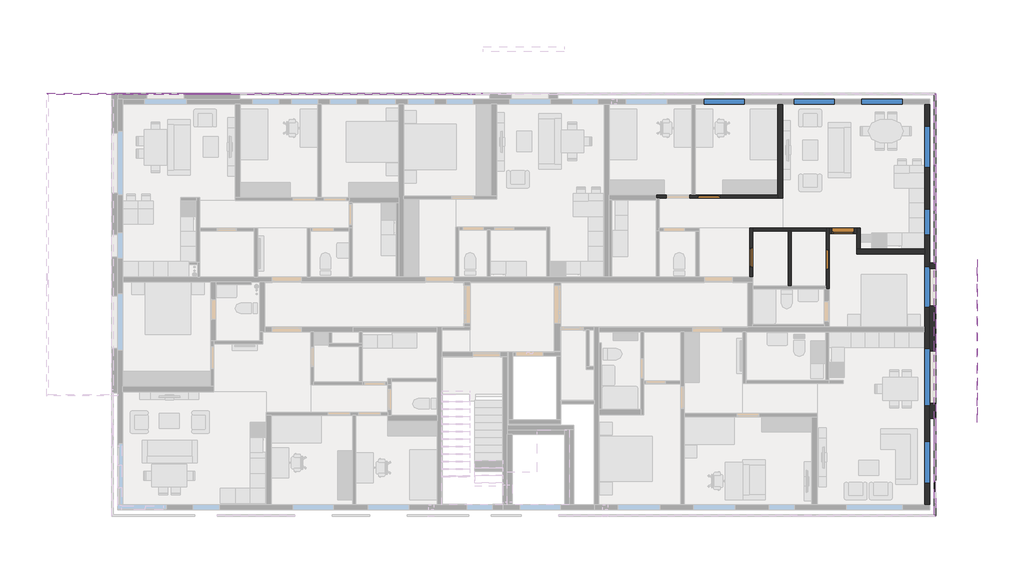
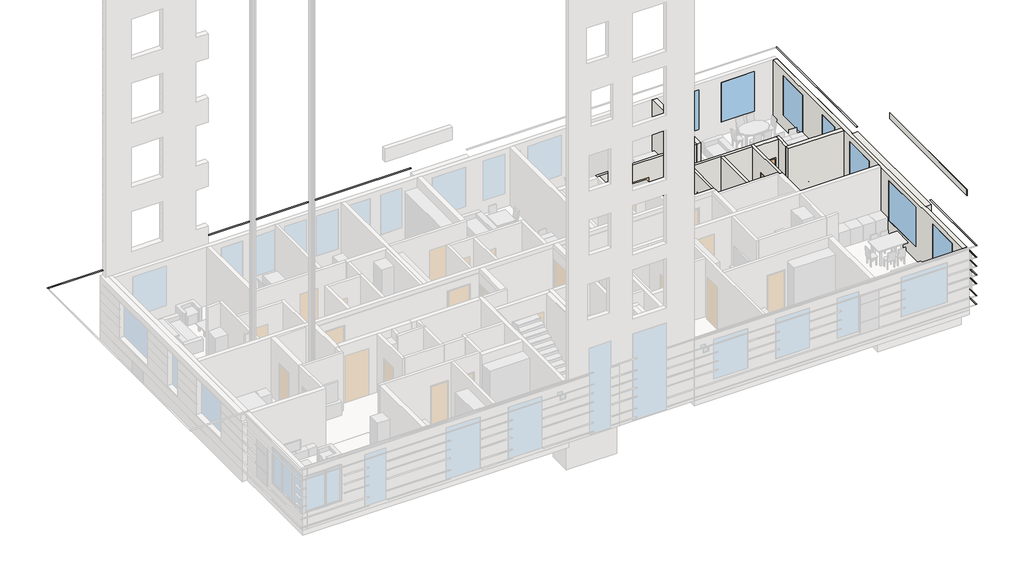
# One storey, part 7 of 11: 31 proxies, 12 walls, 8 doors, 8 windows.
"""IFC4 building model written with IfcOpenShell, lengths in millimetres."""

from ifc_helpers import new_model, si_unit, frame, origin, place, context, project, spatial, polyline, outline, extrude, faceted_brep, transform, mapped, element, save
from components import door_b8e875bd, door_3b0bb860, door_642c7085, door_6199b08a, door_e21d8083, door_050a15a8, window_4f46dce5, window_6eaa91db, window_1203b59f

model = new_model("IFC4")

# Units and contexts
model_context = context("Model", 3, world=origin())
ifc_project = project(units=[si_unit("LENGTHUNIT", "METRE", prefix="MILLI")], contexts=[model_context])

# Site, building, storey
site = spatial("IfcSite", under=ifc_project)
building = spatial("IfcBuilding", under=site)
storey = spatial("IfcBuildingStorey", under=building, Name="02_+4,400_Ж", Elevation=1200.0)

# Proxies
placement = place(None, origin())
element("IfcBuildingElementProxy", 1, Name="Reveals", at=placement, inside=storey, context=model_context, shape_type="SweptSolid", body=[
    extrude(outline(polyline([(133840.0000001, 128049.9999987), (133840.0000001, 127989.9999987), (128855.0000001, 127989.9999987), (128855.0000001, 128049.9999987), (133840.0000001, 128049.9999987)])), frame((0.0, 0.0, 4455.0), z_axis=(0.0, 0.0, 1.0), x_axis=(1.0, 0.0, 0.0)), (0.0, 0.0, 1.0), 5.0),
])
element("IfcBuildingElementProxy", 2, Name="Reveals", at=placement, inside=storey, context=model_context, shape_type="SweptSolid", body=[
    extrude(outline(polyline([(133840.0000001, 128049.9999987), (133840.0000001, 127989.9999987), (128980.0000001, 127989.9999987), (128980.0000001, 128049.9999987), (133840.0000001, 128049.9999987)])), frame((0.0, 0.0, 3850.0), z_axis=(0.0, 0.0, 1.0), x_axis=(1.0, 0.0, 0.0)), (0.0, 0.0, 1.0), 5.0),
])
element("IfcBuildingElementProxy", 3, Name="Reveals", at=placement, inside=storey, context=model_context, shape_type="SweptSolid", body=[
    extrude(outline(polyline([(133840.0000001, 128049.9999987), (133840.0000001, 127989.9999987), (131630.0000001, 127989.9999987), (131630.0000001, 128049.9999987), (133840.0000001, 128049.9999987)])), frame((0.0, 0.0, 3395.0), z_axis=(0.0, 0.0, 1.0), x_axis=(1.0, 0.0, 0.0)), (0.0, 0.0, 1.0), 5.0),
    extrude(outline(polyline([(130130.0000001, 128049.9999987), (130130.0000001, 127989.9999987), (128790.0000001, 127989.9999987), (128730.0000001, 128049.9999987), (130130.0000001, 128049.9999987)])), frame((0.0, 0.0, 3395.0), z_axis=(0.0, 0.0, 1.0), x_axis=(1.0, 0.0, 0.0)), (0.0, 0.0, 1.0), 5.0),
])
element("IfcBuildingElementProxy", 4, Name="Reveals", at=placement, inside=storey, context=model_context, shape_type="SweptSolid", body=[
    extrude(outline(polyline([(133530.0000001, 128049.9999987), (133530.0000001, 127989.9999987), (131630.0000001, 127989.9999987), (131630.0000001, 128049.9999987), (133530.0000001, 128049.9999987)])), frame((0.0, 0.0, 2940.0), z_axis=(0.0, 0.0, 1.0), x_axis=(1.0, 0.0, 0.0)), (0.0, 0.0, 1.0), 5.0),
    extrude(outline(polyline([(130130.0000001, 128049.9999987), (130130.0000001, 127989.9999987), (128790.0000001, 127989.9999987), (128730.0000001, 128049.9999987), (130130.0000001, 128049.9999987)])), frame((0.0, 0.0, 2940.0), z_axis=(0.0, 0.0, 1.0), x_axis=(1.0, 0.0, 0.0)), (0.0, 0.0, 1.0), 5.0),
])
element("IfcBuildingElementProxy", 5, Name="Reveals", at=placement, inside=storey, context=model_context, shape_type="SweptSolid", body=[
    extrude(outline(polyline([(133840.0000001, 128049.9999987), (133840.0000001, 127989.9999987), (131630.0000001, 127989.9999987), (131630.0000001, 128049.9999987), (133840.0000001, 128049.9999987)])), frame((0.0, 0.0, 2485.0), z_axis=(0.0, 0.0, 1.0), x_axis=(1.0, 0.0, 0.0)), (0.0, 0.0, 1.0), 5.0),
    extrude(outline(polyline([(130130.0000001, 128049.9999987), (130130.0000001, 127989.9999987), (128790.0000001, 127989.9999987), (128730.0000001, 128049.9999987), (130130.0000001, 128049.9999987)])), frame((0.0, 0.0, 2485.0), z_axis=(0.0, 0.0, 1.0), x_axis=(1.0, 0.0, 0.0)), (0.0, 0.0, 1.0), 5.0),
])
element("IfcBuildingElementProxy", 6, Name="Reveals", at=placement, inside=storey, context=model_context, shape_type="SweptSolid", body=[
    extrude(outline(polyline([(133840.0000001, 128049.9999987), (133840.0000001, 127989.9999987), (128790.0000001, 127989.9999987), (128730.0000001, 128049.9999987), (133840.0000001, 128049.9999987)])), frame((0.0, 0.0, 1880.0), z_axis=(0.0, 0.0, 1.0), x_axis=(1.0, 0.0, 0.0)), (0.0, 0.0, 1.0), 5.0),
])
element("IfcBuildingElementProxy", 7, Name="Reveals", at=placement, inside=storey, context=model_context, shape_type="SweptSolid", body=[
    extrude(outline(polyline([(133840.0000001, 128049.9999987), (133840.0000001, 127989.9999987), (128790.0000001, 127989.9999987), (128730.0000001, 128049.9999987), (133840.0000001, 128049.9999987)])), frame((0.0, 0.0, 1425.0), z_axis=(0.0, 0.0, 1.0), x_axis=(1.0, 0.0, 0.0)), (0.0, 0.0, 1.0), 5.0),
])
element("IfcBuildingElementProxy", 8, Name="Reveals", at=placement, inside=storey, context=model_context, shape_type="SweptSolid", body=[
    extrude(outline(polyline([(143829.5000001, 128049.9999987), (143829.5000001, 127989.9999987), (133840.0000001, 127989.9999987), (133840.0000001, 128049.9999987), (143829.5000001, 128049.9999987)])), frame((0.0, 0.0, 4455.0), z_axis=(0.0, 0.0, 1.0), x_axis=(1.0, 0.0, 0.0)), (0.0, 0.0, 1.0), 5.0),
])
element("IfcBuildingElementProxy", 9, Name="Reveals", at=placement, inside=storey, context=model_context, shape_type="SweptSolid", body=[
    extrude(outline(polyline([(143829.5000001, 128049.9999987), (143829.5000001, 127989.9999987), (133840.0000001, 127989.9999987), (133840.0000001, 128049.9999987), (143829.5000001, 128049.9999987)])), frame((0.0, 0.0, 3850.0), z_axis=(0.0, 0.0, 1.0), x_axis=(1.0, 0.0, 0.0)), (0.0, 0.0, 1.0), 5.0),
])
element("IfcBuildingElementProxy", 10, Name="Reveals", at=placement, inside=storey, context=model_context, shape_type="SweptSolid", body=[
    extrude(outline(polyline([(143829.5000001, 128049.9999987), (143829.5000001, 127989.9999987), (143080.0000001, 127989.9999987), (143080.0000001, 128049.9999987), (143829.5000001, 128049.9999987)])), frame((0.0, 0.0, 3395.0), z_axis=(0.0, 0.0, 1.0), x_axis=(1.0, 0.0, 0.0)), (0.0, 0.0, 1.0), 5.0),
    extrude(outline(polyline([(134430.0000001, 128049.9999987), (134430.0000001, 127989.9999987), (133840.0000001, 127989.9999987), (133840.0000001, 128049.9999987), (134430.0000001, 128049.9999987)])), frame((0.0, 0.0, 3395.0), z_axis=(0.0, 0.0, 1.0), x_axis=(1.0, 0.0, 0.0)), (0.0, 0.0, 1.0), 5.0),
    extrude(outline(polyline([(135980.0000001, 128049.9999987), (135980.0000001, 127989.9999987), (135330.0000001, 127989.9999987), (135330.0000001, 128049.9999987), (135980.0000001, 128049.9999987)])), frame((0.0, 0.0, 3395.0), z_axis=(0.0, 0.0, 1.0), x_axis=(1.0, 0.0, 0.0)), (0.0, 0.0, 1.0), 5.0),
    extrude(outline(polyline([(137530.0000001, 128049.9999987), (137530.0000001, 127989.9999987), (136880.0000001, 127989.9999987), (136880.0000001, 128049.9999987), (137530.0000001, 128049.9999987)])), frame((0.0, 0.0, 3395.0), z_axis=(0.0, 0.0, 1.0), x_axis=(1.0, 0.0, 0.0)), (0.0, 0.0, 1.0), 5.0),
    extrude(outline(polyline([(139080.0000001, 128049.9999987), (139080.0000001, 127989.9999987), (138430.0000001, 127989.9999987), (138430.0000001, 128049.9999987), (139080.0000001, 128049.9999987)])), frame((0.0, 0.0, 3395.0), z_axis=(0.0, 0.0, 1.0), x_axis=(1.0, 0.0, 0.0)), (0.0, 0.0, 1.0), 5.0),
    extrude(outline(polyline([(140630.0000001, 128049.9999987), (140630.0000001, 127989.9999987), (139980.0000001, 127989.9999987), (139980.0000001, 128049.9999987), (140630.0000001, 128049.9999987)])), frame((0.0, 0.0, 3395.0), z_axis=(0.0, 0.0, 1.0), x_axis=(1.0, 0.0, 0.0)), (0.0, 0.0, 1.0), 5.0),
    extrude(outline(polyline([(142180.0000001, 128049.9999987), (142180.0000001, 127989.9999987), (141530.0000001, 127989.9999987), (141530.0000001, 128049.9999987), (142180.0000001, 128049.9999987)])), frame((0.0, 0.0, 3395.0), z_axis=(0.0, 0.0, 1.0), x_axis=(1.0, 0.0, 0.0)), (0.0, 0.0, 1.0), 5.0),
])
element("IfcBuildingElementProxy", 11, Name="Reveals", at=placement, inside=storey, context=model_context, shape_type="SweptSolid", body=[
    extrude(outline(polyline([(161570.0000001, 127989.9999987), (161630.0000001, 128049.9999987), (161630.0000001, 121249.9999987), (161570.0000001, 121249.9999987), (161570.0000001, 127989.9999987)])), frame((0.0, 0.0, 4455.0), z_axis=(0.0, 0.0, 1.0), x_axis=(1.0, 0.0, 0.0)), (0.0, 0.0, 1.0), 5.0),
])
element("IfcBuildingElementProxy", 12, Name="Reveals", at=placement, inside=storey, context=model_context, shape_type="SweptSolid", body=[
    extrude(outline(polyline([(161570.0000001, 127989.9999987), (161630.0000001, 128049.9999987), (161630.0000001, 121249.9999987), (161570.0000001, 121249.9999987), (161570.0000001, 127989.9999987)])), frame((0.0, 0.0, 3850.0), z_axis=(0.0, 0.0, 1.0), x_axis=(1.0, 0.0, 0.0)), (0.0, 0.0, 1.0), 5.0),
])
element("IfcBuildingElementProxy", 13, Name="Reveals", at=placement, inside=storey, context=model_context, shape_type="SweptSolid", body=[
    extrude(outline(polyline([(161570.0000001, 122449.9999987), (161630.0000001, 122449.9999987), (161630.0000001, 121249.9999987), (161570.0000001, 121249.9999987), (161570.0000001, 122449.9999987)])), frame((0.0, 0.0, 3395.0), z_axis=(0.0, 0.0, 1.0), x_axis=(1.0, 0.0, 0.0)), (0.0, 0.0, 1.0), 5.0),
    extrude(outline(polyline([(161570.0000001, 125149.9999987), (161630.0000001, 125149.9999987), (161630.0000001, 123349.9999987), (161570.0000001, 123349.9999987), (161570.0000001, 125149.9999987)])), frame((0.0, 0.0, 3395.0), z_axis=(0.0, 0.0, 1.0), x_axis=(1.0, 0.0, 0.0)), (0.0, 0.0, 1.0), 5.0),
    extrude(outline(polyline([(161570.0000001, 127989.9999987), (161630.0000001, 128049.9999987), (161630.0000001, 126649.9999987), (161570.0000001, 126649.9999987), (161570.0000001, 127989.9999987)])), frame((0.0, 0.0, 3395.0), z_axis=(0.0, 0.0, 1.0), x_axis=(1.0, 0.0, 0.0)), (0.0, 0.0, 1.0), 5.0),
])
element("IfcBuildingElementProxy", 14, Name="Reveals", at=placement, inside=storey, context=model_context, shape_type="SweptSolid", body=[
    extrude(outline(polyline([(161570.0000001, 122449.9999987), (161630.0000001, 122449.9999987), (161630.0000001, 121249.9999987), (161570.0000001, 121249.9999987), (161570.0000001, 122449.9999987)])), frame((0.0, 0.0, 2940.0), z_axis=(0.0, 0.0, 1.0), x_axis=(1.0, 0.0, 0.0)), (0.0, 0.0, 1.0), 5.0),
    extrude(outline(polyline([(161570.0000001, 125149.9999987), (161630.0000001, 125149.9999987), (161630.0000001, 123349.9999987), (161570.0000001, 123349.9999987), (161570.0000001, 125149.9999987)])), frame((0.0, 0.0, 2940.0), z_axis=(0.0, 0.0, 1.0), x_axis=(1.0, 0.0, 0.0)), (0.0, 0.0, 1.0), 5.0),
    extrude(outline(polyline([(161570.0000001, 127989.9999987), (161630.0000001, 128049.9999987), (161630.0000001, 126649.9999987), (161570.0000001, 126649.9999987), (161570.0000001, 127989.9999987)])), frame((0.0, 0.0, 2940.0), z_axis=(0.0, 0.0, 1.0), x_axis=(1.0, 0.0, 0.0)), (0.0, 0.0, 1.0), 5.0),
])
element("IfcBuildingElementProxy", 15, Name="Reveals", at=placement, inside=storey, context=model_context, shape_type="SweptSolid", body=[
    extrude(outline(polyline([(161570.0000001, 122449.9999987), (161630.0000001, 122449.9999987), (161630.0000001, 121249.9999987), (161570.0000001, 121249.9999987), (161570.0000001, 122449.9999987)])), frame((0.0, 0.0, 2485.0), z_axis=(0.0, 0.0, 1.0), x_axis=(1.0, 0.0, 0.0)), (0.0, 0.0, 1.0), 5.0),
    extrude(outline(polyline([(161570.0000001, 125149.9999987), (161630.0000001, 125149.9999987), (161630.0000001, 123349.9999987), (161570.0000001, 123349.9999987), (161570.0000001, 125149.9999987)])), frame((0.0, 0.0, 2485.0), z_axis=(0.0, 0.0, 1.0), x_axis=(1.0, 0.0, 0.0)), (0.0, 0.0, 1.0), 5.0),
    extrude(outline(polyline([(161570.0000001, 127989.9999987), (161630.0000001, 128049.9999987), (161630.0000001, 126649.9999987), (161570.0000001, 126649.9999987), (161570.0000001, 127989.9999987)])), frame((0.0, 0.0, 2485.0), z_axis=(0.0, 0.0, 1.0), x_axis=(1.0, 0.0, 0.0)), (0.0, 0.0, 1.0), 5.0),
])
element("IfcBuildingElementProxy", 16, Name="Reveals", at=placement, inside=storey, context=model_context, shape_type="SweptSolid", body=[
    extrude(outline(polyline([(161570.0000001, 127989.9999987), (161630.0000001, 128049.9999987), (161630.0000001, 121249.9999987), (161570.0000001, 121249.9999987), (161570.0000001, 127989.9999987)])), frame((0.0, 0.0, 1880.0), z_axis=(0.0, 0.0, 1.0), x_axis=(1.0, 0.0, 0.0)), (0.0, 0.0, 1.0), 5.0),
])
element("IfcBuildingElementProxy", 17, Name="Reveals", at=placement, inside=storey, context=model_context, shape_type="SweptSolid", body=[
    extrude(outline(polyline([(161570.0000001, 127989.9999987), (161630.0000001, 128049.9999987), (161630.0000001, 121249.9999987), (161570.0000001, 121249.9999987), (161570.0000001, 127989.9999987)])), frame((0.0, 0.0, 1425.0), z_axis=(0.0, 0.0, 1.0), x_axis=(1.0, 0.0, 0.0)), (0.0, 0.0, 1.0), 5.0),
])
element("IfcBuildingElementProxy", 18, Name="Reveals", at=placement, inside=storey, context=model_context, shape_type="SweptSolid", body=[
    extrude(outline(polyline([(161570.0000001, 121249.9999987), (161630.0000001, 121249.9999987), (161630.0000001, 115049.9999987), (161570.0000001, 115049.9999987), (161570.0000001, 121249.9999987)])), frame((0.0, 0.0, 3850.0), z_axis=(0.0, 0.0, 1.0), x_axis=(1.0, 0.0, 0.0)), (0.0, 0.0, 1.0), 5.0),
])
element("IfcBuildingElementProxy", 19, Name="Reveals", at=placement, inside=storey, context=model_context, shape_type="SweptSolid", body=[
    extrude(outline(polyline([(161570.0000001, 115649.9999987), (161630.0000001, 115649.9999987), (161630.0000001, 115049.9999987), (161570.0000001, 115049.9999987), (161570.0000001, 115649.9999987)])), frame((0.0, 0.0, 3395.0), z_axis=(0.0, 0.0, 1.0), x_axis=(1.0, 0.0, 0.0)), (0.0, 0.0, 1.0), 5.0),
    extrude(outline(polyline([(161570.0000001, 121249.9999987), (161630.0000001, 121249.9999987), (161630.0000001, 121049.9999987), (161570.0000001, 121049.9999987), (161570.0000001, 121249.9999987)])), frame((0.0, 0.0, 3395.0), z_axis=(0.0, 0.0, 1.0), x_axis=(1.0, 0.0, 0.0)), (0.0, 0.0, 1.0), 5.0),
    extrude(outline(polyline([(161570.0000001, 119549.9999987), (161630.0000001, 119549.9999987), (161630.0000001, 117749.9999987), (161570.0000001, 117749.9999987), (161570.0000001, 119549.9999987)])), frame((0.0, 0.0, 3395.0), z_axis=(0.0, 0.0, 1.0), x_axis=(1.0, 0.0, 0.0)), (0.0, 0.0, 1.0), 5.0),
])
element("IfcBuildingElementProxy", 20, Name="Reveals", at=placement, inside=storey, context=model_context, shape_type="SweptSolid", body=[
    extrude(outline(polyline([(161570.0000001, 115649.9999987), (161630.0000001, 115649.9999987), (161630.0000001, 115049.9999987), (161570.0000001, 115049.9999987), (161570.0000001, 115649.9999987)])), frame((0.0, 0.0, 2940.0), z_axis=(0.0, 0.0, 1.0), x_axis=(1.0, 0.0, 0.0)), (0.0, 0.0, 1.0), 5.0),
    extrude(outline(polyline([(161570.0000001, 121249.9999987), (161630.0000001, 121249.9999987), (161630.0000001, 121049.9999987), (161570.0000001, 121049.9999987), (161570.0000001, 121249.9999987)])), frame((0.0, 0.0, 2940.0), z_axis=(0.0, 0.0, 1.0), x_axis=(1.0, 0.0, 0.0)), (0.0, 0.0, 1.0), 5.0),
    extrude(outline(polyline([(161570.0000001, 119549.9999987), (161630.0000001, 119549.9999987), (161630.0000001, 117749.9999987), (161570.0000001, 117749.9999987), (161570.0000001, 119549.9999987)])), frame((0.0, 0.0, 2940.0), z_axis=(0.0, 0.0, 1.0), x_axis=(1.0, 0.0, 0.0)), (0.0, 0.0, 1.0), 5.0),
])
element("IfcBuildingElementProxy", 21, Name="Reveals", at=placement, inside=storey, context=model_context, shape_type="SweptSolid", body=[
    extrude(outline(polyline([(161570.0000001, 115649.9999987), (161630.0000001, 115649.9999987), (161630.0000001, 115049.9999987), (161570.0000001, 115049.9999987), (161570.0000001, 115649.9999987)])), frame((0.0, 0.0, 2485.0), z_axis=(0.0, 0.0, 1.0), x_axis=(1.0, 0.0, 0.0)), (0.0, 0.0, 1.0), 5.0),
    extrude(outline(polyline([(161570.0000001, 121249.9999987), (161630.0000001, 121249.9999987), (161630.0000001, 121049.9999987), (161570.0000001, 121049.9999987), (161570.0000001, 121249.9999987)])), frame((0.0, 0.0, 2485.0), z_axis=(0.0, 0.0, 1.0), x_axis=(1.0, 0.0, 0.0)), (0.0, 0.0, 1.0), 5.0),
    extrude(outline(polyline([(161570.0000001, 119549.9999987), (161630.0000001, 119549.9999987), (161630.0000001, 117749.9999987), (161570.0000001, 117749.9999987), (161570.0000001, 119549.9999987)])), frame((0.0, 0.0, 2485.0), z_axis=(0.0, 0.0, 1.0), x_axis=(1.0, 0.0, 0.0)), (0.0, 0.0, 1.0), 5.0),
])
element("IfcBuildingElementProxy", 22, Name="Reveals", at=placement, inside=storey, context=model_context, shape_type="SweptSolid", body=[
    extrude(outline(polyline([(161570.0000001, 121249.9999987), (161630.0000001, 121249.9999987), (161630.0000001, 115049.9999987), (161570.0000001, 115049.9999987), (161570.0000001, 121249.9999987)])), frame((0.0, 0.0, 1880.0), z_axis=(0.0, 0.0, 1.0), x_axis=(1.0, 0.0, 0.0)), (0.0, 0.0, 1.0), 5.0),
])
element("IfcBuildingElementProxy", 23, Name="Reveals", at=placement, inside=storey, context=model_context, shape_type="SweptSolid", body=[
    extrude(outline(polyline([(161570.0000001, 121249.9999987), (161630.0000001, 121249.9999987), (161630.0000001, 115049.9999987), (161570.0000001, 115049.9999987), (161570.0000001, 121249.9999987)])), frame((0.0, 0.0, 1425.0), z_axis=(0.0, 0.0, 1.0), x_axis=(1.0, 0.0, 0.0)), (0.0, 0.0, 1.0), 5.0),
])
element("IfcBuildingElementProxy", 24, Name="Reveals", at=placement, inside=storey, context=model_context, shape_type="SweptSolid", body=[
    extrude(outline(polyline([(161570.0000001, 115049.9999987), (161630.0000001, 115049.9999987), (161630.0000001, 111149.9999987), (161570.0000001, 111209.9999987), (161570.0000001, 115049.9999987)])), frame((0.0, 0.0, 4455.0), z_axis=(0.0, 0.0, 1.0), x_axis=(1.0, 0.0, 0.0)), (0.0, 0.0, 1.0), 5.0),
])
element("IfcBuildingElementProxy", 25, Name="Reveals", at=placement, inside=storey, context=model_context, shape_type="SweptSolid", body=[
    extrude(outline(polyline([(161570.0000001, 115049.9999987), (161630.0000001, 115049.9999987), (161630.0000001, 111149.9999987), (161570.0000001, 111209.9999987), (161570.0000001, 115049.9999987)])), frame((0.0, 0.0, 3850.0), z_axis=(0.0, 0.0, 1.0), x_axis=(1.0, 0.0, 0.0)), (0.0, 0.0, 1.0), 5.0),
])
element("IfcBuildingElementProxy", 26, Name="Reveals", at=placement, inside=storey, context=model_context, shape_type="SweptSolid", body=[
    extrude(outline(polyline([(161570.0000001, 112549.9999987), (161630.0000001, 112549.9999987), (161630.0000001, 111149.9999987), (161570.0000001, 111209.9999987), (161570.0000001, 112549.9999987)])), frame((0.0, 0.0, 3395.0), z_axis=(0.0, 0.0, 1.0), x_axis=(1.0, 0.0, 0.0)), (0.0, 0.0, 1.0), 5.0),
    extrude(outline(polyline([(161570.0000001, 115049.9999987), (161630.0000001, 115049.9999987), (161630.0000001, 114049.9999987), (161570.0000001, 114049.9999987), (161570.0000001, 115049.9999987)])), frame((0.0, 0.0, 3395.0), z_axis=(0.0, 0.0, 1.0), x_axis=(1.0, 0.0, 0.0)), (0.0, 0.0, 1.0), 5.0),
])
element("IfcBuildingElementProxy", 27, Name="Reveals", at=placement, inside=storey, context=model_context, shape_type="SweptSolid", body=[
    extrude(outline(polyline([(161570.0000001, 111649.9999987), (161630.0000001, 111649.9999987), (161630.0000001, 111149.9999987), (161570.0000001, 111209.9999987), (161570.0000001, 111649.9999987)])), frame((0.0, 0.0, 2940.0), z_axis=(0.0, 0.0, 1.0), x_axis=(1.0, 0.0, 0.0)), (0.0, 0.0, 1.0), 5.0),
    extrude(outline(polyline([(161570.0000001, 115049.9999987), (161630.0000001, 115049.9999987), (161630.0000001, 114049.9999987), (161570.0000001, 114049.9999987), (161570.0000001, 115049.9999987)])), frame((0.0, 0.0, 2940.0), z_axis=(0.0, 0.0, 1.0), x_axis=(1.0, 0.0, 0.0)), (0.0, 0.0, 1.0), 5.0),
])
element("IfcBuildingElementProxy", 28, Name="Reveals", at=placement, inside=storey, context=model_context, shape_type="SweptSolid", body=[
    extrude(outline(polyline([(161570.0000001, 112549.9999987), (161630.0000001, 112549.9999987), (161630.0000001, 111149.9999987), (161570.0000001, 111209.9999987), (161570.0000001, 112549.9999987)])), frame((0.0, 0.0, 2485.0), z_axis=(0.0, 0.0, 1.0), x_axis=(1.0, 0.0, 0.0)), (0.0, 0.0, 1.0), 5.0),
    extrude(outline(polyline([(161570.0000001, 115049.9999987), (161630.0000001, 115049.9999987), (161630.0000001, 114049.9999987), (161570.0000001, 114049.9999987), (161570.0000001, 115049.9999987)])), frame((0.0, 0.0, 2485.0), z_axis=(0.0, 0.0, 1.0), x_axis=(1.0, 0.0, 0.0)), (0.0, 0.0, 1.0), 5.0),
])
element("IfcBuildingElementProxy", 29, Name="Reveals", at=placement, inside=storey, context=model_context, shape_type="SweptSolid", body=[
    extrude(outline(polyline([(161570.0000001, 115049.9999987), (161630.0000001, 115049.9999987), (161630.0000001, 111149.9999987), (161570.0000001, 111209.9999987), (161570.0000001, 115049.9999987)])), frame((0.0, 0.0, 1880.0), z_axis=(0.0, 0.0, 1.0), x_axis=(1.0, 0.0, 0.0)), (0.0, 0.0, 1.0), 5.0),
])
element("IfcBuildingElementProxy", 30, Name="Reveals", at=placement, inside=storey, context=model_context, shape_type="SweptSolid", body=[
    extrude(outline(polyline([(161570.0000001, 115049.9999987), (161630.0000001, 115049.9999987), (161630.0000001, 111149.9999987), (161570.0000001, 111209.9999987), (161570.0000001, 115049.9999987)])), frame((0.0, 0.0, 1425.0), z_axis=(0.0, 0.0, 1.0), x_axis=(1.0, 0.0, 0.0)), (0.0, 0.0, 1.0), 5.0),
])
element("IfcBuildingElementProxy", 31, Name="Reveals", at=placement, inside=storey, context=model_context, shape_type="SweptSolid", body=[
    extrude(outline(polyline([(128855.0000001, 128049.9999987), (128855.0000001, 127989.9999987), (126190.0000001, 127989.9999987), (126130.0000001, 128049.9999987), (128855.0000001, 128049.9999987)])), frame((0.0, 0.0, 4455.0), z_axis=(0.0, 0.0, 1.0), x_axis=(1.0, 0.0, 0.0)), (0.0, 0.0, 1.0), 5.0),
])

# Doors
door_shape = door_b8e875bd(model_context)
element("IfcDoor", 32, ObjectType="Dr_Проем-Простой : ДВ", at=placement, inside=storey, context=model_context, shape_type="MappedRepresentation", body=[
    mapped(door_shape, transform((152359.8391908, 123917.4999987, 1200.0), x_axis=(1.0, 0.0, 0.0), y_axis=(0.0, 1.0, 0.0), z_axis=(0.0, 0.0, 1.0))),
])
door_2_shape = door_3b0bb860(model_context)
element("IfcDoor", 33, ObjectType="Dr_Проем-Простой : ДВ", at=placement, inside=storey, context=model_context, shape_type="MappedRepresentation", body=[
    mapped(door_2_shape, transform((154267.5000001, 121274.6769824, 1200.0), x_axis=(0.0, 1.0, 0.0), y_axis=(-1.0, 0.0, 0.0), z_axis=(0.0, 0.0, 1.0))),
])
element("IfcDoor", 34, ObjectType="Dr_Проем-Простой : ДВ", at=placement, inside=storey, context=model_context, shape_type="MappedRepresentation", body=[
    mapped(door_2_shape, transform((157317.5000001, 121605.323015, 1200.0), x_axis=(0.0, -1.0, 0.0), y_axis=(1.0, 0.0, 0.0), z_axis=(0.0, 0.0, 1.0))),
])
door_3_shape = door_642c7085(model_context)
element("IfcDoor", 35, ObjectType="Dr_Проем-Простой : ДВ", at=placement, inside=storey, context=model_context, shape_type="MappedRepresentation", body=[
    mapped(door_3_shape, transform((158135.3230165, 122549.9999987, 1200.0), x_axis=(-1.0, 0.0, 0.0), y_axis=(0.0, -1.0, 0.0), z_axis=(0.0, 0.0, 1.0))),
])
door_4_shape = door_6199b08a(model_context)
element("IfcDoor", 36, ObjectType="Dr_Дверь_v2.1 : ДМ Мд1 Зв3 Оп Г Брг 21-9", at=placement, inside=storey, context=model_context, shape_type="MappedRepresentation", body=[
    mapped(door_4_shape, transform((152440.1622072, 123917.4999987, 1200.0), x_axis=(1.0, 0.0, 0.0), y_axis=(0.0, 1.0, 0.0), z_axis=(0.0, 0.0, 1.0))),
])
door_5_shape = door_e21d8083(model_context)
element("IfcDoor", 37, ObjectType="Dr_Дверь_v2.1 : ДМ Мд1 Оп Г Брг 21-8 Л", at=placement, inside=storey, context=model_context, shape_type="MappedRepresentation", body=[
    mapped(door_5_shape, transform((154267.5000001, 121354.9999987, 1200.0), x_axis=(0.0, 1.0, 0.0), y_axis=(-1.0, 0.0, 0.0), z_axis=(0.0, 0.0, 1.0))),
])
element("IfcDoor", 38, ObjectType="Dr_Дверь_v2.1 : ДМ Мд1 Оп Г Брг 21-8 Л", at=placement, inside=storey, context=model_context, shape_type="MappedRepresentation", body=[
    mapped(door_5_shape, transform((157317.5000001, 121524.9999987, 1200.0), x_axis=(0.0, -1.0, 0.0), y_axis=(1.0, 0.0, 0.0), z_axis=(0.0, 0.0, 1.0))),
])
door_6_shape = door_050a15a8(model_context)
element("IfcDoor", 39, ObjectType="Dr_Дверь_v2.1 : ДМ Мд1 Зв2 Оп Г Брг 21-9", at=placement, inside=storey, context=model_context, shape_type="MappedRepresentation", body=[
    mapped(door_6_shape, transform((158055.0000001, 122549.9999987, 1200.0), x_axis=(-1.0, 0.0, 0.0), y_axis=(0.0, -1.0, 0.0), z_axis=(0.0, 0.0, 1.0))),
])

# Walls
element("IfcWall", 40, ObjectType="BW_THR_EXT_180+60+10=250_2-9 эт минплита под вентфасад и КГ-------", at=placement, inside=storey, context=model_context, shape_type="Brep", body=[
    faceted_brep([(161380.0000001, 121249.9999987, 850.0), (161380.0000001, 115049.9999987, 850.0), (161380.0000001, 115049.9999987, 4200.0), (161380.0000001, 121249.9999987, 4200.0), (161380.0000001, 117749.9999987, 3850.0), (161380.0000001, 115649.9999987, 3850.0), (161380.0000001, 115649.9999987, 1950.0), (161380.0000001, 117749.9999987, 1950.0), (161380.0000001, 121049.9999987, 3850.0), (161380.0000001, 119549.9999987, 3850.0), (161380.0000001, 119549.9999987, 1950.0), (161380.0000001, 121049.9999987, 1950.0), (161630.0000001, 115049.9999987, 850.0), (161630.0000001, 121249.9999987, 850.0), (161630.0000001, 121249.9999987, 1425.0), (161630.0000001, 115049.9999987, 1425.0), (161630.0000001, 121249.9999987, 4200.0), (161630.0000001, 115049.9999987, 4200.0), (161630.0000001, 115049.9999987, 3855.0), (161630.0000001, 121249.9999987, 3855.0), (161630.0000001, 121249.9999987, 3850.0), (161630.0000001, 121049.9999987, 3850.0), (161630.0000001, 121049.9999987, 3400.0), (161630.0000001, 121249.9999987, 3400.0), (161630.0000001, 115649.9999987, 3395.0), (161630.0000001, 115049.9999987, 3395.0), (161630.0000001, 115049.9999987, 2945.0), (161630.0000001, 115649.9999987, 2945.0), (161630.0000001, 115649.9999987, 2940.0), (161630.0000001, 115049.9999987, 2940.0), (161630.0000001, 115049.9999987, 2490.0), (161630.0000001, 115649.9999987, 2490.0), (161630.0000001, 115649.9999987, 2485.0), (161630.0000001, 115049.9999987, 2485.0), (161630.0000001, 115049.9999987, 1885.0), (161630.0000001, 121249.9999987, 1885.0), (161630.0000001, 121249.9999987, 2485.0), (161630.0000001, 121049.9999987, 2485.0), (161630.0000001, 121049.9999987, 1950.0), (161630.0000001, 119549.9999987, 1950.0), (161630.0000001, 119549.9999987, 2485.0), (161630.0000001, 117749.9999987, 2485.0), (161630.0000001, 117749.9999987, 1950.0), (161630.0000001, 115649.9999987, 1950.0), (161630.0000001, 121249.9999987, 1880.0), (161630.0000001, 115049.9999987, 1880.0), (161630.0000001, 115049.9999987, 1430.0), (161630.0000001, 121249.9999987, 1430.0), (161630.0000001, 121249.9999987, 3395.0), (161630.0000001, 121049.9999987, 3395.0), (161630.0000001, 121049.9999987, 2945.0), (161630.0000001, 121249.9999987, 2945.0), (161630.0000001, 119549.9999987, 3395.0), (161630.0000001, 117749.9999987, 3395.0), (161630.0000001, 117749.9999987, 2945.0), (161630.0000001, 119549.9999987, 2945.0), (161630.0000001, 117749.9999987, 3400.0), (161630.0000001, 119549.9999987, 3400.0), (161630.0000001, 119549.9999987, 3850.0), (161630.0000001, 117749.9999987, 3850.0), (161630.0000001, 121249.9999987, 2940.0), (161630.0000001, 121049.9999987, 2940.0), (161630.0000001, 121049.9999987, 2490.0), (161630.0000001, 121249.9999987, 2490.0), (161630.0000001, 119549.9999987, 2940.0), (161630.0000001, 117749.9999987, 2940.0), (161630.0000001, 117749.9999987, 2490.0), (161630.0000001, 119549.9999987, 2490.0), (161630.0000001, 115049.9999987, 3850.0), (161630.0000001, 115049.9999987, 3400.0), (161630.0000001, 115649.9999987, 3400.0), (161630.0000001, 115649.9999987, 3850.0), (161570.0000001, 115049.9999987, 1425.0), (161570.0000001, 115049.9999987, 1430.0), (161570.0000001, 115049.9999987, 1880.0), (161570.0000001, 115049.9999987, 1885.0), (161570.0000001, 115049.9999987, 2485.0), (161570.0000001, 115049.9999987, 2490.0), (161570.0000001, 115049.9999987, 2940.0), (161570.0000001, 115049.9999987, 2945.0), (161570.0000001, 115049.9999987, 3395.0), (161570.0000001, 115049.9999987, 3400.0), (161570.0000001, 115049.9999987, 3850.0), (161570.0000001, 115049.9999987, 3855.0), (161570.0000001, 121249.9999987, 3855.0), (161570.0000001, 121249.9999987, 3850.0), (161570.0000001, 121249.9999987, 3400.0), (161570.0000001, 121249.9999987, 3395.0), (161570.0000001, 121249.9999987, 2945.0), (161570.0000001, 121249.9999987, 2940.0), (161570.0000001, 121249.9999987, 2490.0), (161570.0000001, 121249.9999987, 2485.0), (161570.0000001, 121249.9999987, 1885.0), (161570.0000001, 121249.9999987, 1880.0), (161570.0000001, 121249.9999987, 1430.0), (161570.0000001, 121249.9999987, 1425.0), (161570.0000001, 115649.9999987, 3850.0), (161570.0000001, 117749.9999987, 3850.0), (161570.0000001, 119549.9999987, 3850.0), (161570.0000001, 121049.9999987, 3850.0), (161570.0000001, 115649.9999987, 3400.0), (161570.0000001, 115649.9999987, 3395.0), (161570.0000001, 115649.9999987, 2945.0), (161570.0000001, 115649.9999987, 2940.0), (161570.0000001, 115649.9999987, 2490.0), (161570.0000001, 115649.9999987, 2485.0), (161570.0000001, 121049.9999987, 3395.0), (161570.0000001, 121049.9999987, 3400.0), (161570.0000001, 119549.9999987, 3395.0), (161570.0000001, 117749.9999987, 3395.0), (161570.0000001, 119549.9999987, 3400.0), (161570.0000001, 117749.9999987, 3400.0), (161570.0000001, 121049.9999987, 2940.0), (161570.0000001, 121049.9999987, 2945.0), (161570.0000001, 119549.9999987, 2940.0), (161570.0000001, 117749.9999987, 2940.0), (161570.0000001, 119549.9999987, 2945.0), (161570.0000001, 117749.9999987, 2945.0), (161570.0000001, 121049.9999987, 2485.0), (161570.0000001, 121049.9999987, 2490.0), (161570.0000001, 119549.9999987, 2485.0), (161570.0000001, 117749.9999987, 2485.0), (161570.0000001, 119549.9999987, 2490.0), (161570.0000001, 117749.9999987, 2490.0)], [[[0, 1, 2, 3], [4, 5, 6, 7], [8, 9, 10, 11]], [[12, 13, 14, 15]], [[16, 17, 18, 19]], [[20, 21, 22, 23]], [[24, 25, 26, 27]], [[28, 29, 30, 31]], [[32, 33, 34, 35, 36, 37, 38, 39, 40, 41, 42, 43]], [[44, 45, 46, 47]], [[48, 49, 50, 51]], [[52, 53, 54, 55]], [[56, 57, 58, 59]], [[60, 61, 62, 63]], [[64, 65, 66, 67]], [[68, 69, 70, 71]], [[1, 0, 13, 12]], [[2, 1, 12, 15, 72, 73, 46, 45, 74, 75, 34, 33, 76, 77, 30, 29, 78, 79, 26, 25, 80, 81, 69, 68, 82, 83, 18, 17]], [[3, 2, 17, 16]], [[0, 3, 16, 19, 84, 85, 20, 23, 86, 87, 48, 51, 88, 89, 60, 63, 90, 91, 36, 35, 92, 93, 44, 47, 94, 95, 14, 13]], [[18, 83, 84, 19]], [[83, 82, 96, 97, 98, 99, 85, 84]], [[82, 68, 71, 96]], [[20, 85, 99, 21]], [[59, 58, 98, 97]], [[70, 69, 81, 100]], [[81, 80, 101, 100]], [[25, 24, 101, 80]], [[27, 26, 79, 102]], [[79, 78, 103, 102]], [[29, 28, 103, 78]], [[31, 30, 77, 104]], [[77, 76, 105, 104]], [[33, 32, 105, 76]], [[34, 75, 92, 35]], [[75, 74, 93, 92]], [[74, 45, 44, 93]], [[73, 94, 47, 46]], [[94, 73, 72, 95]], [[95, 72, 15, 14]], [[87, 106, 49, 48]], [[106, 87, 86, 107]], [[107, 86, 23, 22]], [[108, 109, 53, 52]], [[109, 108, 110, 111]], [[111, 110, 57, 56]], [[89, 112, 61, 60]], [[112, 89, 88, 113]], [[113, 88, 51, 50]], [[114, 115, 65, 64]], [[115, 114, 116, 117]], [[117, 116, 55, 54]], [[91, 118, 37, 36]], [[118, 91, 90, 119]], [[119, 90, 63, 62]], [[120, 121, 41, 40]], [[121, 120, 122, 123]], [[123, 122, 67, 66]], [[5, 4, 97, 96]], [[7, 42, 41, 121, 123, 66, 65, 115, 117, 54, 53, 109, 111, 56, 59, 97, 4]], [[42, 7, 6, 43]], [[43, 6, 5, 96, 71, 70, 100, 101, 24, 27, 102, 103, 28, 31, 104, 105, 32]], [[9, 8, 99, 98]], [[11, 38, 37, 118, 119, 62, 61, 112, 113, 50, 49, 106, 107, 22, 21, 99, 8]], [[38, 11, 10, 39]], [[39, 10, 9, 98, 58, 57, 110, 108, 52, 55, 116, 114, 64, 67, 122, 120, 40]]]),
])
element("IfcWall", 41, ObjectType="BW_SUB_GKL_INT_210_Тип П10.1-------", at=placement, inside=storey, context=model_context, shape_type="Brep", body=[
    faceted_brep([(155315.0000001, 127599.9999987, 1180.0), (155315.0000001, 123979.9999987, 1180.0), (155315.0000001, 123854.9999987, 1180.0), (155315.0000001, 123854.9999987, 4200.0), (155315.0000001, 123979.9999987, 4200.0), (155315.0000001, 127599.9999987, 4200.0), (155525.0000001, 127599.9999987, 1180.0), (155525.0000001, 127599.9999987, 4200.0), (155525.0000001, 123854.9999987, 4200.0), (155525.0000001, 123854.9999987, 1180.0)], [[[0, 1, 2, 3, 4, 5]], [[6, 7, 8, 9]], [[2, 1, 0, 6, 9]], [[5, 4, 3, 8, 7]], [[0, 5, 7, 6]], [[3, 2, 9, 8]]]),
])
element("IfcWall", 42, ObjectType="BW_SUB_GKL_INT_125_Тип П9.1-------", at=placement, inside=storey, context=model_context, shape_type="Brep", body=[
    faceted_brep([(150465.0000001, 123979.9999987, 4200.0), (151890.0000001, 123979.9999987, 4200.0), (152015.0000001, 123979.9999987, 4200.0), (155315.0000001, 123979.9999987, 4200.0), (155315.0000001, 123979.9999987, 1180.0), (153015.1622072, 123979.9999987, 1180.0), (153015.1622072, 123979.9999987, 3300.0), (152115.1622072, 123979.9999987, 3300.0), (152115.1622072, 123979.9999987, 1180.0), (152015.0000001, 123979.9999987, 1180.0), (151890.0000001, 123979.9999987, 1180.0), (151789.8377931, 123979.9999987, 1180.0), (151789.8377931, 123979.9999987, 3300.0), (150889.8377931, 123979.9999987, 3300.0), (150889.8377931, 123979.9999987, 1180.0), (150465.0000001, 123979.9999987, 1180.0), (155315.0000001, 123854.9999987, 4200.0), (150590.0000001, 123854.9999987, 4200.0), (150465.0000001, 123854.9999987, 4200.0), (150465.0000001, 123854.9999987, 1180.0), (150590.0000001, 123854.9999987, 1180.0), (150889.8377931, 123854.9999987, 1180.0), (150889.8377931, 123854.9999987, 3300.0), (151789.8377931, 123854.9999987, 3300.0), (151789.8377931, 123854.9999987, 1180.0), (152115.1622072, 123854.9999987, 1180.0), (152115.1622072, 123854.9999987, 3300.0), (153015.1622072, 123854.9999987, 3300.0), (153015.1622072, 123854.9999987, 1180.0), (155315.0000001, 123854.9999987, 1180.0)], [[[0, 1, 2, 3, 4, 5, 6, 7, 8, 9, 10, 11, 12, 13, 14, 15]], [[16, 17, 18, 19, 20, 21, 22, 23, 24, 25, 26, 27, 28, 29]], [[4, 29, 28, 5]], [[14, 21, 20, 19, 15]], [[24, 11, 10, 9, 8, 25]], [[3, 2, 1, 0, 18, 17, 16]], [[4, 3, 16, 29]], [[14, 13, 22, 21]], [[12, 11, 24, 23]], [[13, 12, 23, 22]], [[0, 15, 19, 18]], [[7, 26, 25, 8]], [[27, 6, 5, 28]], [[26, 7, 6, 27]]]),
])
element("IfcWall", 43, ObjectType="BW_SUB_GKL_INT_210_Тип П10.1-------", at=placement, inside=storey, context=model_context, shape_type="Brep", body=[
    faceted_brep([(158480.0000001, 121614.9999987, 1180.0), (161180.0000001, 121614.9999987, 1180.0), (161180.0000001, 121614.9999987, 4200.0), (158480.0000001, 121614.9999987, 4200.0), (158480.0000001, 121824.9999987, 1180.0), (158480.0000001, 121824.9999987, 4200.0), (158605.0000001, 121824.9999987, 4200.0), (161180.0000001, 121824.9999987, 4200.0), (161180.0000001, 121824.9999987, 1180.0), (158605.0000001, 121824.9999987, 1180.0)], [[[0, 1, 2, 3]], [[4, 5, 6, 7, 8, 9]], [[1, 0, 4, 9, 8]], [[2, 1, 8, 7]], [[3, 2, 7, 6, 5]], [[0, 3, 5, 4]]]),
])
element("IfcWall", 44, ObjectType="BW_SUB_GKL_INT_125_Тип П9.1-------", at=placement, inside=storey, context=model_context, shape_type="Brep", body=[
    faceted_brep([(157255.0000001, 120224.9999987, 4200.0), (157255.0000001, 120349.9999987, 4200.0), (157255.0000001, 122529.9999987, 4200.0), (157255.0000001, 122654.9999987, 4200.0), (157255.0000001, 122654.9999987, 1180.0), (157255.0000001, 122529.9999987, 1180.0), (157255.0000001, 121799.9999987, 1180.0), (157255.0000001, 121799.9999987, 3300.0), (157255.0000001, 120999.9999987, 3300.0), (157255.0000001, 120999.9999987, 1180.0), (157255.0000001, 120349.9999987, 1180.0), (157255.0000001, 120224.9999987, 1180.0), (157380.0000001, 122654.9999987, 4200.0), (157380.0000001, 122444.9999987, 4200.0), (157380.0000001, 120224.9999987, 4200.0), (157380.0000001, 120224.9999987, 1180.0), (157380.0000001, 120999.9999987, 1180.0), (157380.0000001, 120999.9999987, 3300.0), (157380.0000001, 121799.9999987, 3300.0), (157380.0000001, 121799.9999987, 1180.0), (157380.0000001, 122444.9999987, 1180.0), (157380.0000001, 122654.9999987, 1180.0)], [[[0, 1, 2, 3, 4, 5, 6, 7, 8, 9, 10, 11]], [[12, 13, 14, 15, 16, 17, 18, 19, 20, 21]], [[15, 11, 10, 9, 16]], [[4, 21, 20, 19, 6, 5]], [[3, 2, 1, 0, 14, 13, 12]], [[18, 7, 6, 19]], [[8, 17, 16, 9]], [[7, 18, 17, 8]], [[0, 11, 15, 14]], [[4, 3, 12, 21]]]),
])
element("IfcWall", 45, ObjectType="BW_SUB_GKL_INT_125_Тип П9.1-------", at=placement, inside=storey, context=model_context, shape_type="SweptSolid", body=[
    extrude(outline(polyline([(155730.0000001, 120349.9999987), (155730.0000001, 122529.9999987), (155855.0000001, 122529.9999987), (155855.0000001, 120349.9999987), (155730.0000001, 120349.9999987)])), frame((0.0, 0.0, 1180.0), z_axis=(0.0, 0.0, 1.0), x_axis=(1.0, 0.0, 0.0)), (0.0, 0.0, 1.0), 3020.0),
])
element("IfcWall", 46, ObjectType="BW_SUB_GKL_INT_125_Тип П9.1-------", at=placement, inside=storey, context=model_context, shape_type="Brep", body=[
    faceted_brep([(154330.0000001, 122654.9999987, 4200.0), (154330.0000001, 122529.9999987, 4200.0), (154330.0000001, 120699.9999987, 4200.0), (154330.0000001, 120699.9999987, 1180.0), (154330.0000001, 121079.9999987, 1180.0), (154330.0000001, 121079.9999987, 3300.0), (154330.0000001, 121879.9999987, 3300.0), (154330.0000001, 121879.9999987, 1180.0), (154330.0000001, 122529.9999987, 1180.0), (154330.0000001, 122654.9999987, 1180.0), (154205.0000001, 120699.9999987, 4200.0), (154205.0000001, 122654.9999987, 4200.0), (154205.0000001, 122654.9999987, 1180.0), (154205.0000001, 121879.9999987, 1180.0), (154205.0000001, 121879.9999987, 3300.0), (154205.0000001, 121079.9999987, 3300.0), (154205.0000001, 121079.9999987, 1180.0), (154205.0000001, 120699.9999987, 1180.0)], [[[0, 1, 2, 3, 4, 5, 6, 7, 8, 9]], [[10, 11, 12, 13, 14, 15, 16, 17]], [[3, 17, 16, 4]], [[12, 9, 8, 7, 13]], [[2, 1, 0, 11, 10]], [[3, 2, 10, 17]], [[15, 5, 4, 16]], [[6, 14, 13, 7]], [[5, 15, 14, 6]], [[0, 9, 12, 11]]]),
])
element("IfcWall", 47, ObjectType="BW_SUB_GKL_INT_125_Тип П9.1-------", at=placement, inside=storey, context=model_context, shape_type="Brep", body=[
    faceted_brep([(154330.0000001, 122529.9999987, 1180.0), (155730.0000001, 122529.9999987, 1180.0), (155855.0000001, 122529.9999987, 1180.0), (157255.0000001, 122529.9999987, 1180.0), (157255.0000001, 122529.9999987, 4200.0), (155855.0000001, 122529.9999987, 4200.0), (155730.0000001, 122529.9999987, 4200.0), (154330.0000001, 122529.9999987, 4200.0), (154330.0000001, 122654.9999987, 1180.0), (154330.0000001, 122654.9999987, 4200.0), (157255.0000001, 122654.9999987, 4200.0), (157255.0000001, 122654.9999987, 1180.0)], [[[0, 1, 2, 3, 4, 5, 6, 7]], [[8, 9, 10, 11]], [[3, 2, 1, 0, 8, 11]], [[7, 6, 5, 4, 10, 9]], [[0, 7, 9, 8]], [[4, 3, 11, 10]]]),
])
element("IfcWall", 48, ObjectType="BW_SUB_GKL_INT_125_Тип П9.1-------", at=placement, inside=storey, context=model_context, shape_type="Brep", body=[
    faceted_brep([(158480.0000001, 122654.9999987, 1180.0), (158480.0000001, 122444.9999987, 1180.0), (158480.0000001, 121824.9999987, 1180.0), (158480.0000001, 121824.9999987, 4200.0), (158480.0000001, 122444.9999987, 4200.0), (158480.0000001, 122654.9999987, 4200.0), (158605.0000001, 122654.9999987, 1180.0), (158605.0000001, 122654.9999987, 4200.0), (158605.0000001, 121824.9999987, 4200.0), (158605.0000001, 121824.9999987, 1180.0)], [[[0, 1, 2, 3, 4, 5]], [[6, 7, 8, 9]], [[2, 1, 0, 6, 9]], [[5, 4, 3, 8, 7]], [[0, 5, 7, 6]], [[3, 2, 9, 8]]]),
])
element("IfcWall", 49, ObjectType="BW_SUB_GKL_INT_210_Тип П10.1-------", at=placement, inside=storey, context=model_context, shape_type="SweptSolid", body=[
    extrude(outline(polyline([(4200.0, 158480.0000001), (4200.0, 157380.0000001), (1180.0, 157380.0000001), (1180.0, 157480.0000001), (3300.0, 157480.0000001), (3300.0, 158380.0000001), (1180.0, 158380.0000001), (1180.0, 158480.0000001), (4200.0, 158480.0000001)])), frame((0.0, 122444.9999987, 0.0), z_axis=(0.0, 1.0, 0.0), x_axis=(0.0, 0.0, 1.0)), (0.0, 0.0, 1.0), 210.0),
])
element("IfcWall", 50, ObjectType="BW_FN2_10_внеш отделка алюминий-------", at=placement, inside=storey, context=model_context, shape_type="Brep", body=[
    faceted_brep([(163280.0000002, 121404.9999987, 4200.0), (163280.0000002, 121399.9999987, 4200.0), (163280.0000001, 114899.9999987, 4200.0), (163280.0000001, 114894.9999987, 4200.0), (163280.0000001, 114894.9999987, 4500.0), (163280.0000002, 121404.9999987, 4500.0), (163290.0000002, 121404.9999987, 4200.0), (163290.0000002, 121404.9999987, 4500.0), (163290.0000001, 114894.9999987, 4500.0), (163290.0000001, 114894.9999987, 4200.0)], [[[0, 1, 2, 3, 4, 5]], [[6, 7, 8, 9]], [[3, 2, 1, 0, 6, 9]], [[4, 3, 9, 8]], [[5, 4, 8, 7]], [[0, 5, 7, 6]]]),
])
element("IfcWall", 51, ObjectType="BW_STR_CIP_UP_EXT_200-------", at=placement, inside=storey, context=model_context, shape_type="Brep", body=[
    faceted_brep([(161180.0000001, 127599.9999987, 1098.886009), (161180.0000001, 111599.9999987, 1098.886009), (161180.0000001, 111599.9999987, 4200.0), (161180.0000001, 118499.9999987, 4200.0), (161180.0000001, 118699.9999987, 4200.0), (161180.0000001, 127599.9999987, 4200.0), (161180.0000001, 126719.9999987, 1880.0), (161180.0000001, 126719.9999987, 3920.0), (161180.0000001, 125079.9999987, 3920.0), (161180.0000001, 125079.9999987, 1880.0), (161180.0000001, 121119.9999987, 1880.0), (161180.0000001, 121119.9999987, 3920.0), (161180.0000001, 119479.9999987, 3920.0), (161180.0000001, 119479.9999987, 1880.0), (161180.0000001, 117819.9999987, 1880.0), (161180.0000001, 117819.9999987, 3920.0), (161180.0000001, 115579.9999987, 3920.0), (161180.0000001, 115579.9999987, 1880.0), (161180.0000001, 114119.9999987, 1880.0), (161180.0000001, 114119.9999987, 3920.0), (161180.0000001, 112479.9999987, 3920.0), (161180.0000001, 112479.9999987, 1880.0), (161180.0000001, 123419.9999987, 2180.0), (161180.0000001, 123419.9999987, 3920.0), (161180.0000001, 122379.9999987, 3920.0), (161180.0000001, 122379.9999987, 2180.0), (161380.0000001, 127599.9999987, 1098.886009), (161380.0000001, 127599.9999987, 4200.0), (161380.0000001, 121399.9999987, 4200.0), (161380.0000001, 121249.9999987, 4200.0), (161380.0000001, 115049.9999987, 4200.0), (161380.0000001, 114899.9999987, 4200.0), (161380.0000001, 111599.9999987, 4200.0), (161380.0000001, 111599.9999987, 1100.0), (161380.0000001, 111599.9999987, 1098.886009), (161380.0000001, 126719.9999987, 3920.0), (161380.0000001, 126719.9999987, 1880.0), (161380.0000001, 125079.9999987, 1880.0), (161380.0000001, 125079.9999987, 3920.0), (161380.0000001, 121119.9999987, 3920.0), (161380.0000001, 121119.9999987, 1880.0), (161380.0000001, 119479.9999987, 1880.0), (161380.0000001, 119479.9999987, 3920.0), (161380.0000001, 117819.9999987, 3920.0), (161380.0000001, 117819.9999987, 1880.0), (161380.0000001, 115579.9999987, 1880.0), (161380.0000001, 115579.9999987, 3920.0), (161380.0000001, 114119.9999987, 3920.0), (161380.0000001, 114119.9999987, 1880.0), (161380.0000001, 112479.9999987, 1880.0), (161380.0000001, 112479.9999987, 3920.0), (161380.0000001, 123419.9999987, 3920.0), (161380.0000001, 123419.9999987, 2180.0), (161380.0000001, 122379.9999987, 2180.0), (161380.0000001, 122379.9999987, 3920.0)], [[[0, 1, 2, 3, 4, 5], [6, 7, 8, 9], [10, 11, 12, 13], [14, 15, 16, 17], [18, 19, 20, 21], [22, 23, 24, 25]], [[26, 27, 28, 29, 30, 31, 32, 33, 34], [35, 36, 37, 38], [39, 40, 41, 42], [43, 44, 45, 46], [47, 48, 49, 50], [51, 52, 53, 54]], [[1, 0, 26, 34]], [[5, 4, 3, 2, 32, 31, 30, 29, 28, 27]], [[0, 5, 27, 26]], [[35, 7, 6, 36]], [[36, 6, 9, 37]], [[37, 9, 8, 38]], [[7, 35, 38, 8]], [[39, 11, 10, 40]], [[40, 10, 13, 41]], [[41, 13, 12, 42]], [[11, 39, 42, 12]], [[43, 15, 14, 44]], [[44, 14, 17, 45]], [[45, 17, 16, 46]], [[15, 43, 46, 16]], [[47, 19, 18, 48]], [[48, 18, 21, 49]], [[49, 21, 20, 50]], [[19, 47, 50, 20]], [[51, 23, 22, 52]], [[52, 22, 25, 53]], [[53, 25, 24, 54]], [[23, 51, 54, 24]], [[2, 1, 34, 33, 32]]]),
])

# Windows
window_shape = window_4f46dce5(model_context)
element("IfcWindow", 52, ObjectType="Dr_Проем-Четверти_об модель : ОК", at=placement, inside=storey, context=model_context, shape_type="MappedRepresentation", body=[
    mapped(window_shape, transform((153045.0000001, 127699.9999987, 1950.0), x_axis=(1.0, 0.0, 0.0), y_axis=(0.0, 1.0, 0.0), z_axis=(0.0, 0.0, 1.0))),
])
element("IfcWindow", 53, ObjectType="Dr_Проем-Четверти_об модель : ОК", at=placement, inside=storey, context=model_context, shape_type="MappedRepresentation", body=[
    mapped(window_shape, transform((156645.0000001, 127699.9999987, 1950.0), x_axis=(1.0, 0.0, 0.0), y_axis=(0.0, 1.0, 0.0), z_axis=(0.0, 0.0, 1.0))),
])
element("IfcWindow", 54, ObjectType="Dr_Проем-Четверти_об модель : ОК", at=placement, inside=storey, context=model_context, shape_type="MappedRepresentation", body=[
    mapped(window_shape, transform((159345.0000001, 127699.9999987, 1950.0), x_axis=(1.0, 0.0, 0.0), y_axis=(0.0, 1.0, 0.0), z_axis=(0.0, 0.0, 1.0))),
])
element("IfcWindow", 55, ObjectType="Dr_Проем-Четверти_об модель : ОК", at=placement, inside=storey, context=model_context, shape_type="MappedRepresentation", body=[
    mapped(window_shape, transform((161280.0000001, 126034.9999987, 1950.0), x_axis=(0.0, -1.0, 0.0), y_axis=(1.0, 0.0, 0.0), z_axis=(0.0, 0.0, 1.0))),
])
element("IfcWindow", 56, ObjectType="Dr_Проем-Четверти_об модель : ОК", at=placement, inside=storey, context=model_context, shape_type="MappedRepresentation", body=[
    mapped(window_shape, transform((161280.0000001, 120434.9999987, 1950.0), x_axis=(0.0, -1.0, 0.0), y_axis=(1.0, 0.0, 0.0), z_axis=(0.0, 0.0, 1.0))),
])
element("IfcWindow", 57, ObjectType="Dr_Проем-Четверти_об модель : ОК", at=placement, inside=storey, context=model_context, shape_type="MappedRepresentation", body=[
    mapped(window_shape, transform((161280.0000001, 113434.9999987, 1950.0), x_axis=(0.0, -1.0, 0.0), y_axis=(1.0, 0.0, 0.0), z_axis=(0.0, 0.0, 1.0))),
])
window_2_shape = window_6eaa91db(model_context)
element("IfcWindow", 58, ObjectType="Dr_Проем-Четверти_об модель : ОК", at=placement, inside=storey, context=model_context, shape_type="MappedRepresentation", body=[
    mapped(window_2_shape, transform((161280.0000001, 116834.9999987, 1950.0), x_axis=(0.0, -1.0, 0.0), y_axis=(1.0, 0.0, 0.0), z_axis=(0.0, 0.0, 1.0))),
])
window_3_shape = window_1203b59f(model_context)
element("IfcWindow", 59, ObjectType="Dr_Проем-Четверти_об модель : ОК", at=placement, inside=storey, context=model_context, shape_type="MappedRepresentation", body=[
    mapped(window_3_shape, transform((161280.0000001, 123034.9999987, 2250.0), x_axis=(0.0, -1.0, 0.0), y_axis=(1.0, 0.0, 0.0), z_axis=(0.0, 0.0, 1.0))),
])

save(model, "model.ifc")
